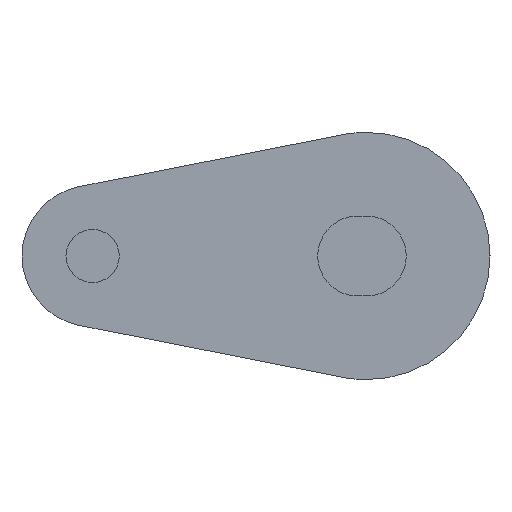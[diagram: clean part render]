
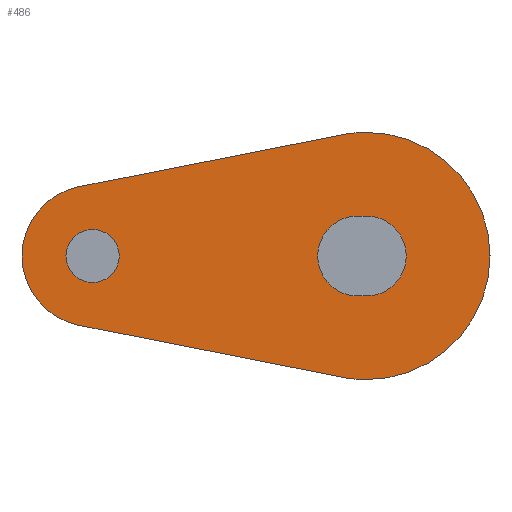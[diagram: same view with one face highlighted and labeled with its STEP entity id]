
A CAD part, left-side view. The second image highlights one B-rep face of the part: STEP entity #486.
In plain terms, the highlighted planar face has unit normal (-1, 0, 0).
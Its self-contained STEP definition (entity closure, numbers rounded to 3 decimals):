
#1 = CARTESIAN_POINT ( 'NONE',  ( -504.5, 16.274, -3.924 ) ) ;
#10 = CARTESIAN_POINT ( 'NONE',  ( -504.5, 0., -7. ) ) ;
#12 = CARTESIAN_POINT ( 'NONE',  ( -504.5, 15.5, 1.51 ) ) ;
#26 = CARTESIAN_POINT ( 'NONE',  ( -504.5, 16.274, 3.924 ) ) ;
#27 = CARTESIAN_POINT ( 'NONE',  ( -504.5, 15.5, -1.51 ) ) ;
#35 = VERTEX_POINT ( 'NONE', #101 ) ;
#41 = VERTEX_POINT ( 'NONE', #1 ) ;
#44 = VERTEX_POINT ( 'NONE', #10 ) ;
#50 = CARTESIAN_POINT ( 'NONE',  ( -504.5, 0., 2.26 ) ) ;
#52 = CARTESIAN_POINT ( 'NONE',  ( -504.5, 0.5, -2.26 ) ) ;
#53 = CARTESIAN_POINT ( 'NONE',  ( -504.5, 1.355, -6.868 ) ) ;
#55 = CARTESIAN_POINT ( 'NONE',  ( -504.5, 0., -2.26 ) ) ;
#59 = CARTESIAN_POINT ( 'NONE',  ( -504.5, 0., 7. ) ) ;
#60 = VERTEX_POINT ( 'NONE', #12 ) ;
#69 = VERTEX_POINT ( 'NONE', #55 ) ;
#70 = VERTEX_POINT ( 'NONE', #53 ) ;
#71 = VERTEX_POINT ( 'NONE', #50 ) ;
#73 = VERTEX_POINT ( 'NONE', #27 ) ;
#74 = VERTEX_POINT ( 'NONE', #26 ) ;
#90 = VERTEX_POINT ( 'NONE', #52 ) ;
#94 = CARTESIAN_POINT ( 'NONE',  ( -504.5, 1.355, 6.868 ) ) ;
#97 = VERTEX_POINT ( 'NONE', #94 ) ;
#101 = CARTESIAN_POINT ( 'NONE',  ( -504.5, 0.5, 2.26 ) ) ;
#105 = VERTEX_POINT ( 'NONE', #59 ) ;
#200 = PLANE ( 'NONE',  #946 ) ;
#201 = CARTESIAN_POINT ( 'NONE',  ( -504.5, 15.5, 0. ) ) ;
#202 = DIRECTION ( 'NONE',  ( -1., 0., 0. ) ) ;
#203 = DIRECTION ( 'NONE',  ( 0., 0., -1. ) ) ;
#228 = DIRECTION ( 'NONE',  ( 1., 0., 0. ) ) ;
#229 = DIRECTION ( 'NONE',  ( 0., 0., -1. ) ) ;
#236 = CARTESIAN_POINT ( 'NONE',  ( -504.5, 0.5, 0. ) ) ;
#245 = CARTESIAN_POINT ( 'NONE',  ( -504.5, 0., 0. ) ) ;
#246 = DIRECTION ( 'NONE',  ( 1., 0., 0. ) ) ;
#247 = DIRECTION ( 'NONE',  ( 0., 0., -1. ) ) ;
#255 = DIRECTION ( 'NONE',  ( 1., 0., 0. ) ) ;
#256 = DIRECTION ( 'NONE',  ( 0., 0., -1. ) ) ;
#264 = CARTESIAN_POINT ( 'NONE',  ( -504.5, 0., 0. ) ) ;
#299 = CARTESIAN_POINT ( 'NONE',  ( -504.5, 15.5, 0. ) ) ;
#303 = CARTESIAN_POINT ( 'NONE',  ( -504.5, 15.5, 0. ) ) ;
#304 = DIRECTION ( 'NONE',  ( 1., 0., 0. ) ) ;
#305 = DIRECTION ( 'NONE',  ( 0., 0., -1. ) ) ;
#314 = DIRECTION ( 'NONE',  ( 1., 0., 0. ) ) ;
#315 = DIRECTION ( 'NONE',  ( 0., 0., -1. ) ) ;
#329 = CARTESIAN_POINT ( 'NONE',  ( -504.5, 0., 0. ) ) ;
#336 = CARTESIAN_POINT ( 'NONE',  ( -504.5, 1.355, -6.868 ) ) ;
#337 = DIRECTION ( 'NONE',  ( 0., 0.981, 0.194 ) ) ;
#338 = DIRECTION ( 'NONE',  ( 0., 0., -1. ) ) ;
#341 = DIRECTION ( 'NONE',  ( 1., 0., 0. ) ) ;
#351 = CARTESIAN_POINT ( 'NONE',  ( -504.5, 15.5, 0. ) ) ;
#363 = DIRECTION ( 'NONE',  ( 0., 0., -1. ) ) ;
#364 = DIRECTION ( 'NONE',  ( 1., 0., 0. ) ) ;
#367 = CARTESIAN_POINT ( 'NONE',  ( -504.5, 0.5, 2.26 ) ) ;
#370 = CARTESIAN_POINT ( 'NONE',  ( -504.5, 0., 0. ) ) ;
#376 = DIRECTION ( 'NONE',  ( 0., 0., -1. ) ) ;
#377 = DIRECTION ( 'NONE',  ( 1., 0., 0. ) ) ;
#381 = DIRECTION ( 'NONE',  ( 0., -1., 0. ) ) ;
#416 = CARTESIAN_POINT ( 'NONE',  ( -504.5, 16.274, 3.924 ) ) ;
#417 = DIRECTION ( 'NONE',  ( 0., -0.981, 0.194 ) ) ;
#422 = CARTESIAN_POINT ( 'NONE',  ( -504.5, 0.5, -2.26 ) ) ;
#423 = DIRECTION ( 'NONE',  ( 0., 1., 0. ) ) ;
#486 = ADVANCED_FACE ( 'NONE', ( #592, #590, #585 ), #200, .T. ) ;
#518 = CIRCLE ( 'NONE', #934, 7. ) ;
#527 = CIRCLE ( 'NONE', #1032, 7. ) ;
#536 = CIRCLE ( 'NONE', #910, 1.51 ) ;
#585 = FACE_OUTER_BOUND ( 'NONE', #784, .T. ) ;
#590 = FACE_BOUND ( 'NONE', #840, .T. ) ;
#592 = FACE_BOUND ( 'NONE', #776, .T. ) ;
#612 = CIRCLE ( 'NONE', #925, 4. ) ;
#641 = CIRCLE ( 'NONE', #926, 2.26 ) ;
#770 = ORIENTED_EDGE ( 'NONE', *, *, #1002, .F. ) ;
#771 = ORIENTED_EDGE ( 'NONE', *, *, #975, .F. ) ;
#773 = ORIENTED_EDGE ( 'NONE', *, *, #969, .F. ) ;
#774 = ORIENTED_EDGE ( 'NONE', *, *, #985, .T. ) ;
#776 = EDGE_LOOP ( 'NONE', ( #774, #791, #792, #817 ) ) ;
#784 = EDGE_LOOP ( 'NONE', ( #808, #770, #771, #773, #812, #813 ) ) ;
#791 = ORIENTED_EDGE ( 'NONE', *, *, #1026, .T. ) ;
#792 = ORIENTED_EDGE ( 'NONE', *, *, #1017, .T. ) ;
#806 = ORIENTED_EDGE ( 'NONE', *, *, #941, .T. ) ;
#807 = ORIENTED_EDGE ( 'NONE', *, *, #1007, .T. ) ;
#808 = ORIENTED_EDGE ( 'NONE', *, *, #989, .F. ) ;
#812 = ORIENTED_EDGE ( 'NONE', *, *, #999, .F. ) ;
#813 = ORIENTED_EDGE ( 'NONE', *, *, #1046, .F. ) ;
#817 = ORIENTED_EDGE ( 'NONE', *, *, #1048, .T. ) ;
#840 = EDGE_LOOP ( 'NONE', ( #806, #807 ) ) ;
#842 = CIRCLE ( 'NONE', #962, 7. ) ;
#844 = LINE ( 'NONE', #336, #885 ) ;
#855 = VECTOR ( 'NONE', #423, 1000. ) ;
#856 = LINE ( 'NONE', #422, #855 ) ;
#861 = LINE ( 'NONE', #416, #863 ) ;
#863 = VECTOR ( 'NONE', #417, 1000. ) ;
#885 = VECTOR ( 'NONE', #337, 1000. ) ;
#889 = CIRCLE ( 'NONE', #954, 1.51 ) ;
#900 = LINE ( 'NONE', #367, #908 ) ;
#901 = CIRCLE ( 'NONE', #1044, 2.26 ) ;
#908 = VECTOR ( 'NONE', #381, 1000. ) ;
#910 = AXIS2_PLACEMENT_3D ( 'NONE', #299, #228, #229 ) ;
#925 = AXIS2_PLACEMENT_3D ( 'NONE', #303, #304, #305 ) ;
#926 = AXIS2_PLACEMENT_3D ( 'NONE', #236, #314, #315 ) ;
#934 = AXIS2_PLACEMENT_3D ( 'NONE', #245, #246, #247 ) ;
#941 = EDGE_CURVE ( 'NONE', #73, #60, #536, .T. ) ;
#946 = AXIS2_PLACEMENT_3D ( 'NONE', #201, #202, #203 ) ;
#954 = AXIS2_PLACEMENT_3D ( 'NONE', #351, #377, #376 ) ;
#962 = AXIS2_PLACEMENT_3D ( 'NONE', #329, #341, #338 ) ;
#969 = EDGE_CURVE ( 'NONE', #105, #44, #527, .T. ) ;
#975 = EDGE_CURVE ( 'NONE', #44, #70, #518, .T. ) ;
#985 = EDGE_CURVE ( 'NONE', #90, #35, #641, .T. ) ;
#989 = EDGE_CURVE ( 'NONE', #41, #74, #612, .T. ) ;
#999 = EDGE_CURVE ( 'NONE', #97, #105, #842, .T. ) ;
#1002 = EDGE_CURVE ( 'NONE', #70, #41, #844, .T. ) ;
#1007 = EDGE_CURVE ( 'NONE', #60, #73, #889, .T. ) ;
#1017 = EDGE_CURVE ( 'NONE', #71, #69, #901, .T. ) ;
#1026 = EDGE_CURVE ( 'NONE', #35, #71, #900, .T. ) ;
#1032 = AXIS2_PLACEMENT_3D ( 'NONE', #264, #255, #256 ) ;
#1044 = AXIS2_PLACEMENT_3D ( 'NONE', #370, #364, #363 ) ;
#1046 = EDGE_CURVE ( 'NONE', #74, #97, #861, .T. ) ;
#1048 = EDGE_CURVE ( 'NONE', #69, #90, #856, .T. ) ;
